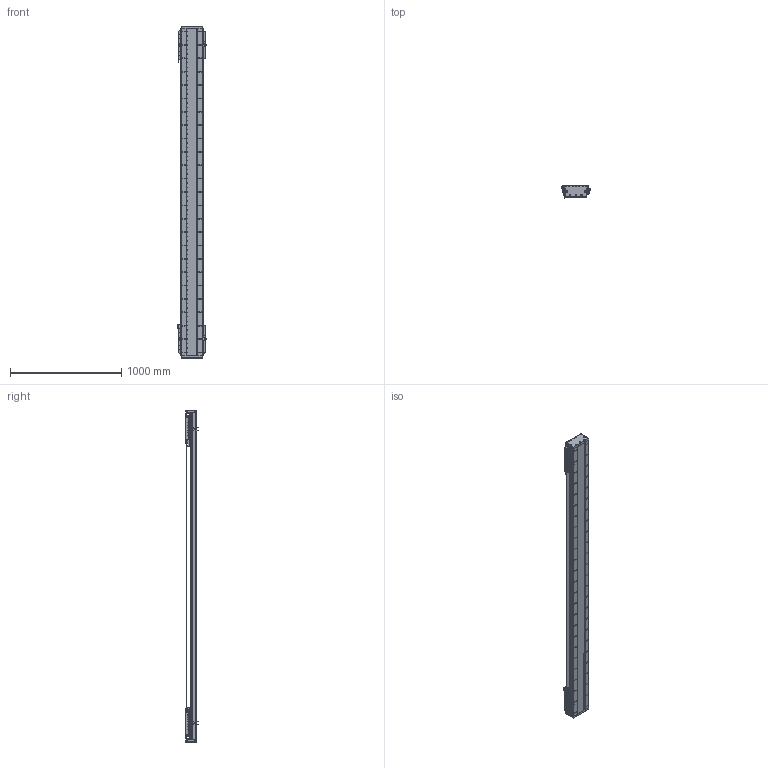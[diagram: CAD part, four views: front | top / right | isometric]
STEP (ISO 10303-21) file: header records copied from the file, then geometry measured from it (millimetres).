
FILE_DESCRIPTION (( 'STEP AP203' ), '1' );
FILE_NAME ('DA-C195-2-C3-T2360-C010-0.2 眻盄萇儂.STEP', '2025-08-15T00:49:49', ( '' ), ( '' ), 'SwSTEP 2.0', 'SolidWorks 2019', '' );
FILE_SCHEMA (( 'CONFIG_CONTROL_DESIGN' ));
Length unit declared in the file: millimetre
Products named in the file (19): DA195詩湍嶺輸; IU-CU195-L-00 菁釱(L2940); DKW-GYP-ZJ-00 笢潔嫖萇覜茼え; DA195詩湍郪璃; IU-CU195-L 菁釱絳寢; CU195-C3賑輸-俋楷; DA195詩湍菜輸; DA-C195-GD-DB-H-00 傷啣; MS200 棠掑喜S315-T240; DA165-GYP-00 光电感应片(默认); PM-Y65嫖萇羲壽郪璃; DA195詩湍裔啣; 葩璃 DA95-GT-T-00; DA95-HXJ-00 遣喳砎蝶; DA-C195-2-C3-T2360-C010-0.2 眻盄萇儂; DKW168-HXJ-ZJ-00 笢潔滅袉砎蝶; LMT黍杅芛; PM-T45ㄗ侂狟ㄘ; DKW-KGZ-ZJ-00 中间光电开关支架
Assembly tree (37 placements, depth 3):
  DA-C195-2-C3-T2360-C010-0.2 眻盄萇儂
    DA195詩湍郪璃
      DA195詩湍菜輸  x2
      DA195詩湍裔啣
      DA195詩湍嶺輸  x2
      DA95-HXJ-00 遣喳砎蝶  x8
      DA-C195-GD-DB-H-00 傷啣  x2
    IU-CU195-L 菁釱絳寢
      IU-CU195-L-00 菁釱(L2940)
      葩璃 DA95-GT-T-00  x4
    LMT黍杅芛  x2
    MS200 棠掑喜S315-T240
    PM-T45ㄗ侂狟ㄘ  x4
    DA165-GYP-00 光电感应片(默认)  x2
    PM-Y65嫖萇羲壽郪璃
    DKW168-HXJ-ZJ-00 笢潔滅袉砎蝶
    DKW-GYP-ZJ-00 笢潔嫖萇覜茼え
    DKW-KGZ-ZJ-00 中间光电开关支架
    CU195-C3賑輸-俋楷  x2
Bounding box: 258.2 x 115.45 x 2980 mm (x, y, z)
Volume: 18831565 mm3; surface area: 5437086 mm2
Topology: 154 solids, 218 shells, 7051 faces, 19047 edges, 11893 vertices
Faces by surface type: cylinder 3442, plane 2557, cone 884, torus 88, sphere 72, bspline 8
Entity records: 158101 total; most frequent: CARTESIAN_POINT 43329, ORIENTED_EDGE 24110, DIRECTION 22784, EDGE_CURVE 12055, AXIS2_PLACEMENT_3D 8401, VERTEX_POINT 7818, VECTOR 5982, LINE 5982
